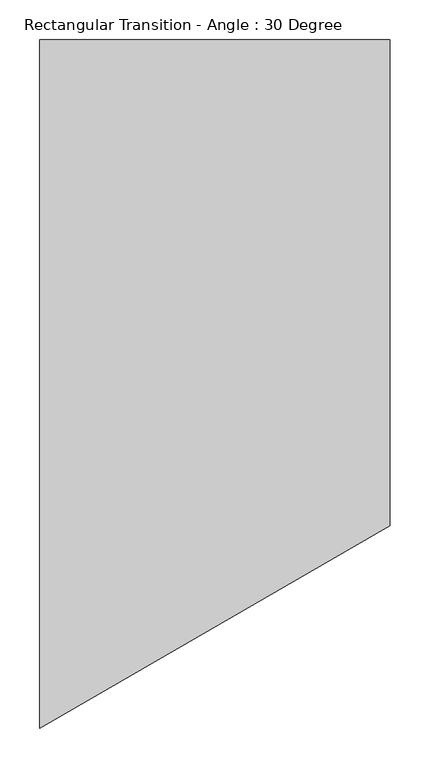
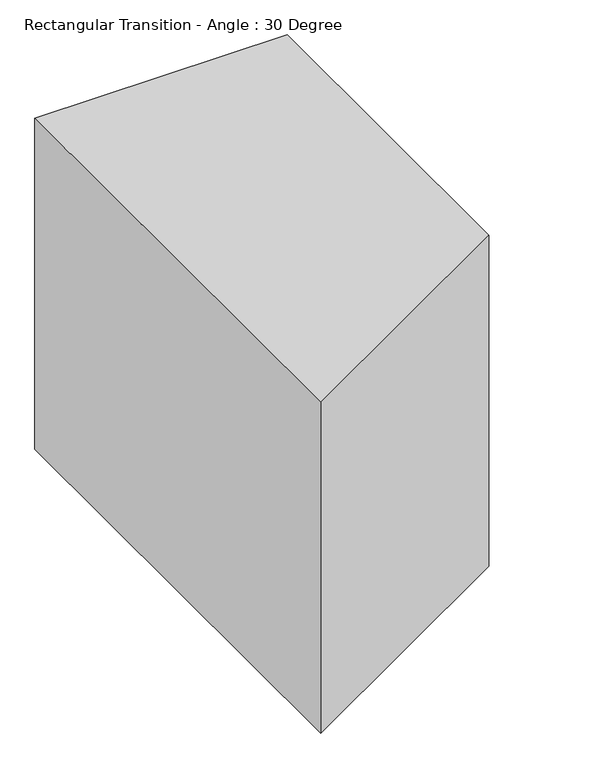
"""IFC4 building model written with IfcOpenShell, lengths in millimetres: duct fitting geometry, Rectangular Transition - Angle : 30 Degree."""

from ifc_helpers import new_model, si_unit, frame, origin, place, context, project, spatial, polyline, outline, extrude, source, transform, mapped, element, save


def rectangular_transition_angle_30_degree_23a220a2(model_context):
    return source(origin(), model_context, "Body", "SweptSolid", [
        extrude(outline(polyline([(0.0, -431.8), (0.0, 431.8), (439.9409051, 431.8), (439.9409051, -177.8), (0.0, -431.8)])), frame((0.0, 0.0, -304.8), z_axis=(0.0, 0.0, 1.0), x_axis=(1.0, 0.0, 0.0)), (0.0, 0.0, 1.0), 609.6),
    ])


if __name__ == "__main__":
    model = new_model("IFC4")
    model_context = context("Model", 3, world=origin())
    ifc_project = project(units=[si_unit("LENGTHUNIT", "METRE", prefix="MILLI")], contexts=[model_context])
    site = spatial("IfcSite", under=ifc_project)
    building = spatial("IfcBuilding", under=site)
    placement = place(None, origin())
    rectangular_transition_angle_30_degree_shape = rectangular_transition_angle_30_degree_23a220a2(model_context)
    element("IfcDuctFitting", 1, ObjectType="Rectangular Transition - Angle : 30 Degree", at=placement, inside=building, context=model_context, shape_type="MappedRepresentation", body=[
        mapped(rectangular_transition_angle_30_degree_shape, transform((0.0, 0.0, 0.0), x_axis=(1.0, 0.0, 0.0), y_axis=(0.0, 1.0, 0.0), z_axis=(0.0, 0.0, 1.0))),
    ])
    save(model, "model.ifc")
